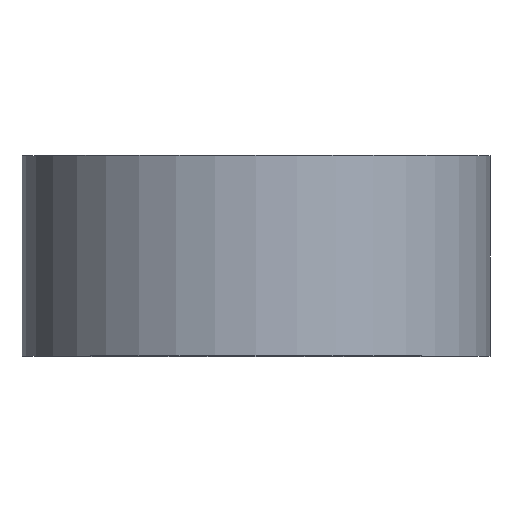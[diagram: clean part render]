
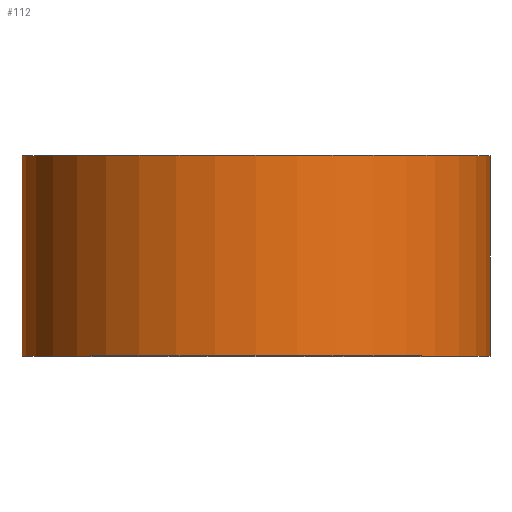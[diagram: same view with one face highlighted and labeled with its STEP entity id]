
A CAD part, top view. The second image highlights one B-rep face of the part: STEP entity #112.
In plain terms, the highlighted cylindrical face has radius 35 mm (diameter 70 mm), a partial arc.
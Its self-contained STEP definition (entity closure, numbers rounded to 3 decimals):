
#9 = EDGE_CURVE ( 'NONE', #155, #212, #78, .T. ) ;
#13 = CARTESIAN_POINT ( 'NONE',  ( 0., 0., 0. ) ) ;
#33 = AXIS2_PLACEMENT_3D ( 'NONE', #13, #287, #145 ) ;
#35 = CYLINDRICAL_SURFACE ( 'NONE', #76, 35. ) ;
#42 = CARTESIAN_POINT ( 'NONE',  ( -35., 0., 0. ) ) ;
#52 = LINE ( 'NONE', #258, #92 ) ;
#69 = DIRECTION ( 'NONE',  ( -1., 0., 0. ) ) ;
#71 = EDGE_CURVE ( 'NONE', #212, #153, #158, .T. ) ;
#76 = AXIS2_PLACEMENT_3D ( 'NONE', #282, #257, #216 ) ;
#78 = LINE ( 'NONE', #42, #285 ) ;
#92 = VECTOR ( 'NONE', #164, 1000. ) ;
#93 = DIRECTION ( 'NONE',  ( 0., 1., 0. ) ) ;
#95 = CARTESIAN_POINT ( 'NONE',  ( 35., 30., 0. ) ) ;
#97 = CARTESIAN_POINT ( 'NONE',  ( 0., 30., 0. ) ) ;
#112 = ADVANCED_FACE ( 'NONE', ( #215 ), #35, .T. ) ;
#128 = ORIENTED_EDGE ( 'NONE', *, *, #238, .T. ) ;
#133 = EDGE_LOOP ( 'NONE', ( #128, #275, #191, #208 ) ) ;
#134 = EDGE_CURVE ( 'NONE', #235, #153, #52, .T. ) ;
#142 = CARTESIAN_POINT ( 'NONE',  ( 35., 0., 0. ) ) ;
#145 = DIRECTION ( 'NONE',  ( -1., 0., 0. ) ) ;
#153 = VERTEX_POINT ( 'NONE', #95 ) ;
#155 = VERTEX_POINT ( 'NONE', #172 ) ;
#158 = CIRCLE ( 'NONE', #266, 35. ) ;
#164 = DIRECTION ( 'NONE',  ( 0., 1., 0. ) ) ;
#172 = CARTESIAN_POINT ( 'NONE',  ( -35., 0., 0. ) ) ;
#191 = ORIENTED_EDGE ( 'NONE', *, *, #71, .F. ) ;
#208 = ORIENTED_EDGE ( 'NONE', *, *, #9, .F. ) ;
#212 = VERTEX_POINT ( 'NONE', #279 ) ;
#215 = FACE_OUTER_BOUND ( 'NONE', #133, .T. ) ;
#216 = DIRECTION ( 'NONE',  ( -1., 0., 0. ) ) ;
#235 = VERTEX_POINT ( 'NONE', #142 ) ;
#238 = EDGE_CURVE ( 'NONE', #155, #235, #261, .T. ) ;
#257 = DIRECTION ( 'NONE',  ( 0., 1., 0. ) ) ;
#258 = CARTESIAN_POINT ( 'NONE',  ( 35., 0., 0. ) ) ;
#261 = CIRCLE ( 'NONE', #33, 35. ) ;
#266 = AXIS2_PLACEMENT_3D ( 'NONE', #97, #280, #69 ) ;
#275 = ORIENTED_EDGE ( 'NONE', *, *, #134, .T. ) ;
#279 = CARTESIAN_POINT ( 'NONE',  ( -35., 30., 0. ) ) ;
#280 = DIRECTION ( 'NONE',  ( 0., 1., 0. ) ) ;
#282 = CARTESIAN_POINT ( 'NONE',  ( 0., 0., 0. ) ) ;
#285 = VECTOR ( 'NONE', #93, 1000. ) ;
#287 = DIRECTION ( 'NONE',  ( 0., 1., 0. ) ) ;
